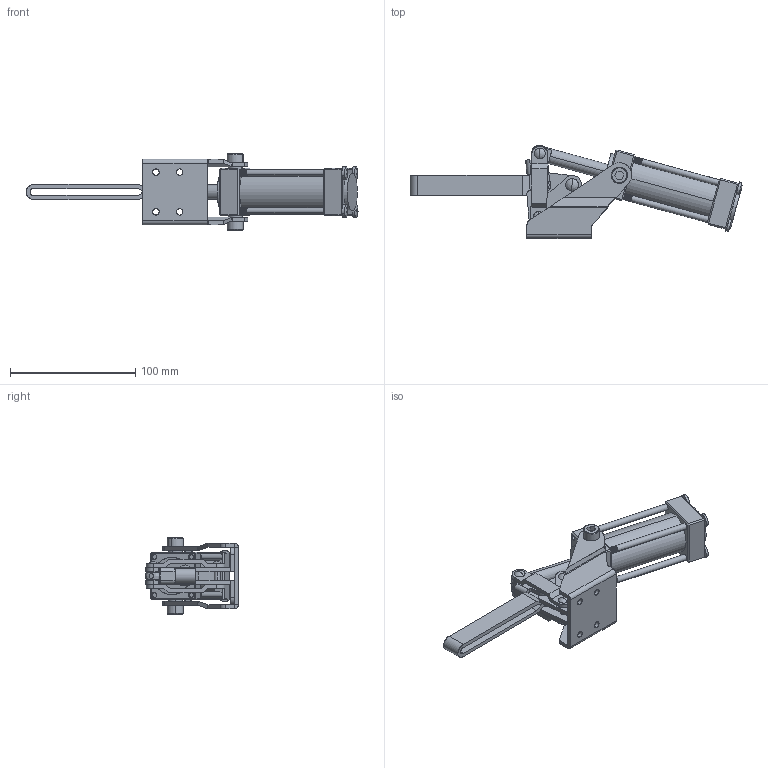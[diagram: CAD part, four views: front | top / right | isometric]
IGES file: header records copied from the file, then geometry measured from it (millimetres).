
Start section: SolidWorks IGES file using analytic representation for surfaces
Global section: file name: D:\GH Files\GH-SW-FILES\GH-A\12130A,12132A\12132\GH-12132A.IGS; native system: SolidWorks 2007; preprocessor: SolidWorks 2007; author: Administrator; date: 061127.155415; units: millimetre
Bounding box: 265.57 x 74.41 x 60.8 mm (x, y, z)
Surface area: 92395.2 mm2 (no closed solid volume)
Topology: 0 solids, 0 shells, 1247 faces, 12584 edges, 12560 vertices
Faces by surface type: revolution 924, bspline 323
